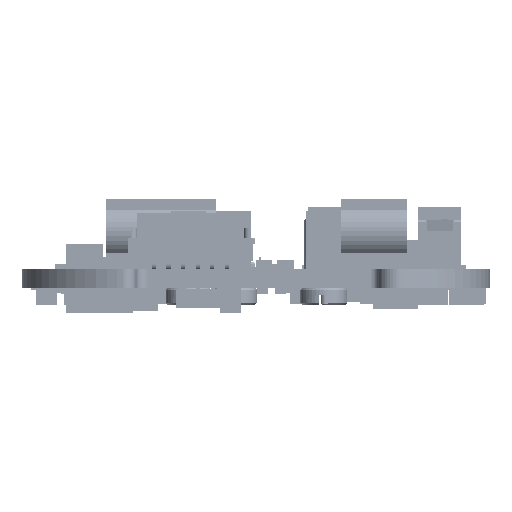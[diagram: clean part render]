
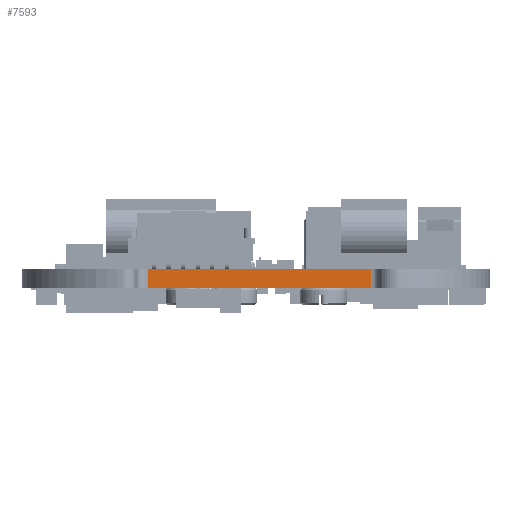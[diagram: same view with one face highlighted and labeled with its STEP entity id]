
A CAD part, left-side view. The second image highlights one B-rep face of the part: STEP entity #7593.
In plain terms, the highlighted planar face has unit normal (-1, 0, 0).
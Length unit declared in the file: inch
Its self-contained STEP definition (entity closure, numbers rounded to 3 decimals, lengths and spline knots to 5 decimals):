
#7593 = ADVANCED_FACE ( 'NONE', ( #137935 ), #247723, .T. ) ;
#35227 = VECTOR ( 'NONE', #280145, 39.37008 ) ;
#40420 = EDGE_CURVE ( 'NONE', #293195, #270512, #180608, .T. ) ;
#41263 = VECTOR ( 'NONE', #190554, 39.37008 ) ;
#41549 = CARTESIAN_POINT ( 'NONE',  ( 0.15812, 1.15003, 0. ) ) ;
#49653 = CARTESIAN_POINT ( 'NONE',  ( 0.15814, 0.4, -0.06143 ) ) ;
#74750 = DIRECTION ( 'NONE',  ( 0., -1., 0. ) ) ;
#76409 = EDGE_LOOP ( 'NONE', ( #296298, #248571, #212641, #126455 ) ) ;
#78179 = CARTESIAN_POINT ( 'NONE',  ( 0.15812, 1.15003, 0. ) ) ;
#114495 = VECTOR ( 'NONE', #165575, 39.37008 ) ;
#126455 = ORIENTED_EDGE ( 'NONE', *, *, #228534, .T. ) ;
#137935 = FACE_OUTER_BOUND ( 'NONE', #76409, .T. ) ;
#139485 = VECTOR ( 'NONE', #240446, 39.37008 ) ;
#155963 = CARTESIAN_POINT ( 'NONE',  ( 0.15812, 1.15003, -0.06143 ) ) ;
#165575 = DIRECTION ( 'NONE',  ( 0., 0., 1. ) ) ;
#165814 = LINE ( 'NONE', #41549, #41263 ) ;
#180608 = LINE ( 'NONE', #314689, #114495 ) ;
#183193 = LINE ( 'NONE', #155963, #35227 ) ;
#190554 = DIRECTION ( 'NONE',  ( 0., 1., 0. ) ) ;
#198646 = EDGE_CURVE ( 'NONE', #309784, #293195, #213460, .T. ) ;
#207716 = CARTESIAN_POINT ( 'NONE',  ( 0.15812, 1.15003, -0.06143 ) ) ;
#212641 = ORIENTED_EDGE ( 'NONE', *, *, #40420, .T. ) ;
#213460 = LINE ( 'NONE', #215375, #139485 ) ;
#215375 = CARTESIAN_POINT ( 'NONE',  ( 0.15812, 1.15003, -0.06143 ) ) ;
#223722 = DIRECTION ( 'NONE',  ( -1., 0., 0. ) ) ;
#228534 = EDGE_CURVE ( 'NONE', #270512, #296946, #165814, .T. ) ;
#240446 = DIRECTION ( 'NONE',  ( 0., -1., 0. ) ) ;
#247723 = PLANE ( 'NONE',  #273097 ) ;
#248571 = ORIENTED_EDGE ( 'NONE', *, *, #198646, .T. ) ;
#258883 = CARTESIAN_POINT ( 'NONE',  ( 0.15814, 0.4, 0. ) ) ;
#270512 = VERTEX_POINT ( 'NONE', #258883 ) ;
#273097 = AXIS2_PLACEMENT_3D ( 'NONE', #49653, #223722, #74750 ) ;
#280145 = DIRECTION ( 'NONE',  ( 0., 0., -1. ) ) ;
#293195 = VERTEX_POINT ( 'NONE', #307804 ) ;
#296298 = ORIENTED_EDGE ( 'NONE', *, *, #306529, .T. ) ;
#296946 = VERTEX_POINT ( 'NONE', #78179 ) ;
#306529 = EDGE_CURVE ( 'NONE', #296946, #309784, #183193, .T. ) ;
#307804 = CARTESIAN_POINT ( 'NONE',  ( 0.15814, 0.4, -0.06143 ) ) ;
#309784 = VERTEX_POINT ( 'NONE', #207716 ) ;
#314689 = CARTESIAN_POINT ( 'NONE',  ( 0.15814, 0.4, -0.06143 ) ) ;
